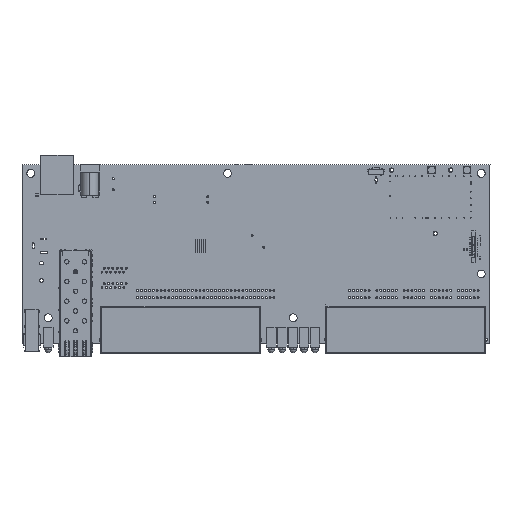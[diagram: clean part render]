
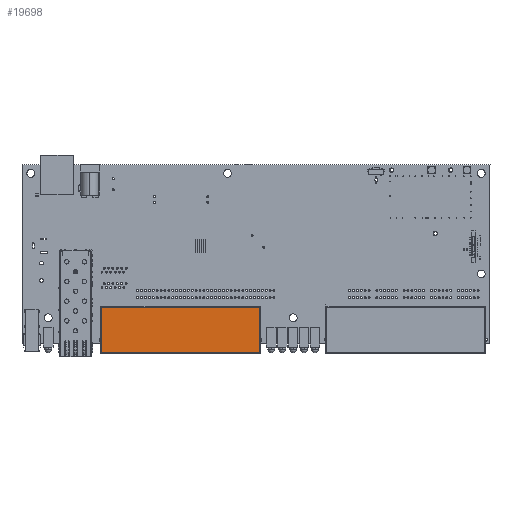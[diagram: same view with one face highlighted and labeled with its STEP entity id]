
A CAD part, top view. The second image highlights one B-rep face of the part: STEP entity #19698.
In plain terms, the highlighted planar face has unit normal (0, 0, 1).
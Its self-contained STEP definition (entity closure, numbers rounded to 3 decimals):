
#2075 = CARTESIAN_POINT ( 'NONE',  ( 108.7, 16.663, 13.6 ) ) ;
#5961 = CARTESIAN_POINT ( 'NONE',  ( 36.3, 16.663, 13.6 ) ) ;
#13499 = ORIENTED_EDGE ( 'NONE', *, *, #60669, .F. ) ;
#14364 = VERTEX_POINT ( 'NONE', #28834 ) ;
#15088 = DIRECTION ( 'NONE',  ( 1., 0., 0. ) ) ;
#15929 = DIRECTION ( 'NONE',  ( 0., 0., 1. ) ) ;
#19467 = EDGE_LOOP ( 'NONE', ( #73953, #13499, #50552, #47486 ) ) ;
#19698 = ADVANCED_FACE ( 'NONE', ( #20733 ), #46436, .T. ) ;
#20733 = FACE_OUTER_BOUND ( 'NONE', #19467, .T. ) ;
#21449 = LINE ( 'NONE', #21882, #54315 ) ;
#21882 = CARTESIAN_POINT ( 'NONE',  ( 36.3, -3.937, 13.6 ) ) ;
#23864 = VECTOR ( 'NONE', #27269, 1000. ) ;
#27269 = DIRECTION ( 'NONE',  ( 0., -1., 0. ) ) ;
#28834 = CARTESIAN_POINT ( 'NONE',  ( 108.7, 16.663, 13.6 ) ) ;
#32076 = VECTOR ( 'NONE', #15088, 1000. ) ;
#34038 = VERTEX_POINT ( 'NONE', #5961 ) ;
#36219 = CARTESIAN_POINT ( 'NONE',  ( 108.7, -3.937, 13.6 ) ) ;
#40707 = AXIS2_PLACEMENT_3D ( 'NONE', #77474, #15929, #59147 ) ;
#40905 = CARTESIAN_POINT ( 'NONE',  ( 36.3, -3.937, 13.6 ) ) ;
#42479 = CARTESIAN_POINT ( 'NONE',  ( 108.7, -3.937, 13.6 ) ) ;
#44642 = LINE ( 'NONE', #58576, #32076 ) ;
#46436 = PLANE ( 'NONE',  #40707 ) ;
#47486 = ORIENTED_EDGE ( 'NONE', *, *, #65570, .F. ) ;
#48063 = VECTOR ( 'NONE', #73164, 1000. ) ;
#50524 = EDGE_CURVE ( 'NONE', #34038, #14364, #44642, .T. ) ;
#50552 = ORIENTED_EDGE ( 'NONE', *, *, #53330, .F. ) ;
#53330 = EDGE_CURVE ( 'NONE', #72260, #61288, #66423, .T. ) ;
#54315 = VECTOR ( 'NONE', #65017, 1000. ) ;
#56750 = LINE ( 'NONE', #2075, #23864 ) ;
#58576 = CARTESIAN_POINT ( 'NONE',  ( 36.3, 16.663, 13.6 ) ) ;
#59147 = DIRECTION ( 'NONE',  ( 1., 0., 0. ) ) ;
#60669 = EDGE_CURVE ( 'NONE', #61288, #34038, #21449, .T. ) ;
#61288 = VERTEX_POINT ( 'NONE', #40905 ) ;
#65017 = DIRECTION ( 'NONE',  ( 0., 1., 0. ) ) ;
#65570 = EDGE_CURVE ( 'NONE', #14364, #72260, #56750, .T. ) ;
#66423 = LINE ( 'NONE', #36219, #48063 ) ;
#72260 = VERTEX_POINT ( 'NONE', #42479 ) ;
#73164 = DIRECTION ( 'NONE',  ( -1., 0., 0. ) ) ;
#73953 = ORIENTED_EDGE ( 'NONE', *, *, #50524, .F. ) ;
#77474 = CARTESIAN_POINT ( 'NONE',  ( 36.3, -3.937, 13.6 ) ) ;
